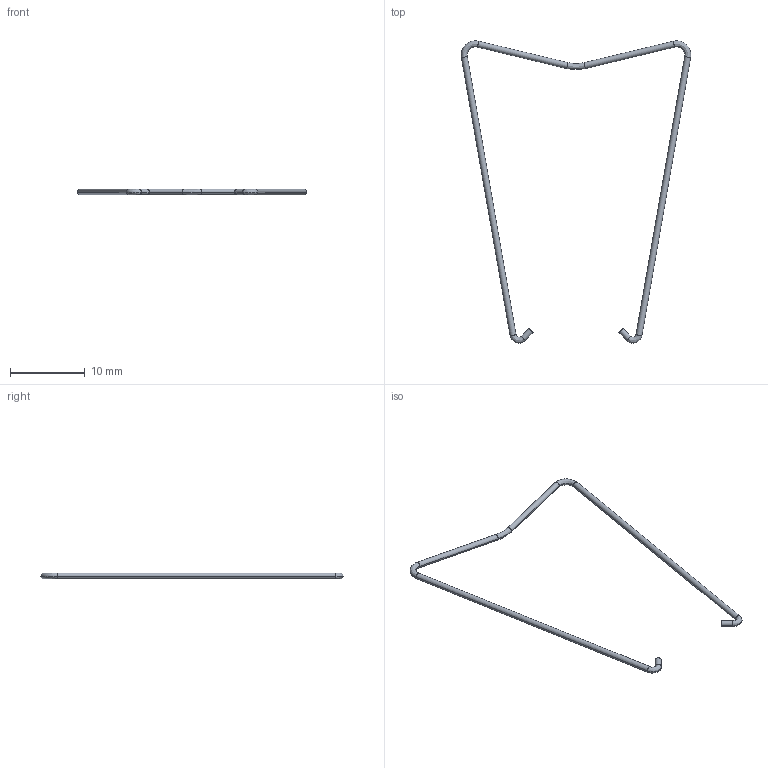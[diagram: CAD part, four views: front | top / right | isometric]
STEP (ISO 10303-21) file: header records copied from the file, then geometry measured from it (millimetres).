
FILE_DESCRIPTION (( 'STEP AP214' ), '1' );
FILE_NAME ('SY36M ¿¨»É.STEP', '2023-05-17T09:17:00', ( 'Win7-Client' ), ( '' ), 'SwSTEP 2.0', 'SolidWorks 2018', '' );
FILE_SCHEMA (( 'AUTOMOTIVE_DESIGN' ));
Length unit declared in the file: millimetre
Products named in the file (1): SY36M 縐銅
Bounding box: 30.64 x 40.34 x 0.8 mm (x, y, z)
Volume: 57.6 mm3; surface area: 289.1 mm2
Topology: 1 solids, 1 shells, 24 faces, 46 edges, 24 vertices
Faces by surface type: cylinder 12, bspline 10, plane 2
Entity records: 748 total; most frequent: CARTESIAN_POINT 245, DIRECTION 110, ORIENTED_EDGE 92, AXIS2_PLACEMENT_3D 49, EDGE_CURVE 46, CIRCLE 34, VERTEX_POINT 24, EDGE_LOOP 24
